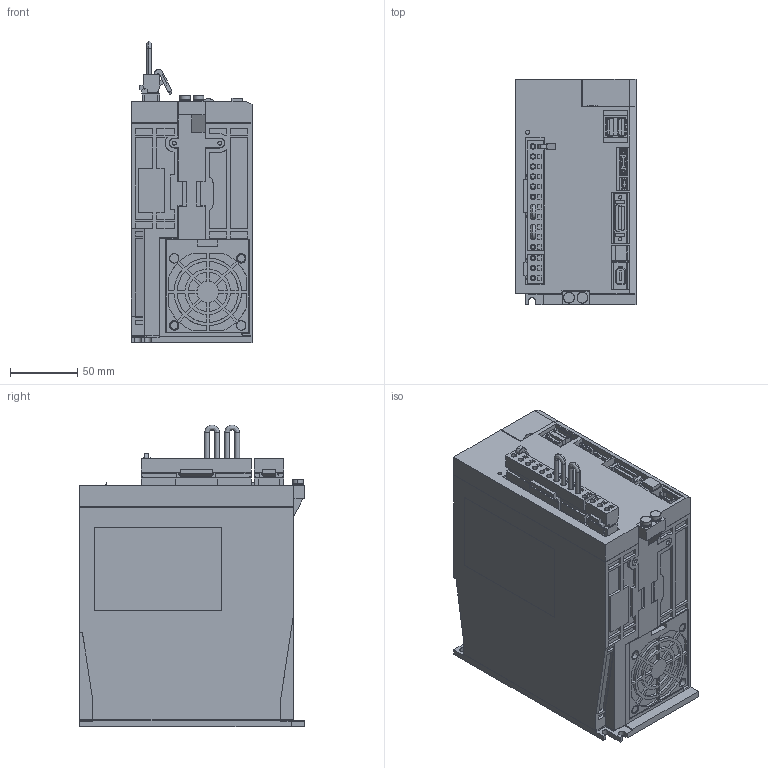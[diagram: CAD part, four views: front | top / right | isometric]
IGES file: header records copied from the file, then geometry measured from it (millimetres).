
Start section: SolidWorks IGES file using analytic representation for surfaces
Global section: file name: D:\YASKAWA\sgd7s_120a10a.IGS; native system: SolidWorks 2006 by SolidWorks Corporation; preprocessor: SolidWorks 2006 by SolidWorks Corporation; author: yamanouchi; date: 140306.132818; units: millimetre
Bounding box: 90.5 x 168 x 225 mm (x, y, z)
Surface area: 171760.6 mm2 (no closed solid volume)
Topology: 0 solids, 0 shells, 1987 faces, 15621 edges, 15621 vertices
Faces by surface type: bspline 1740, revolution 247
